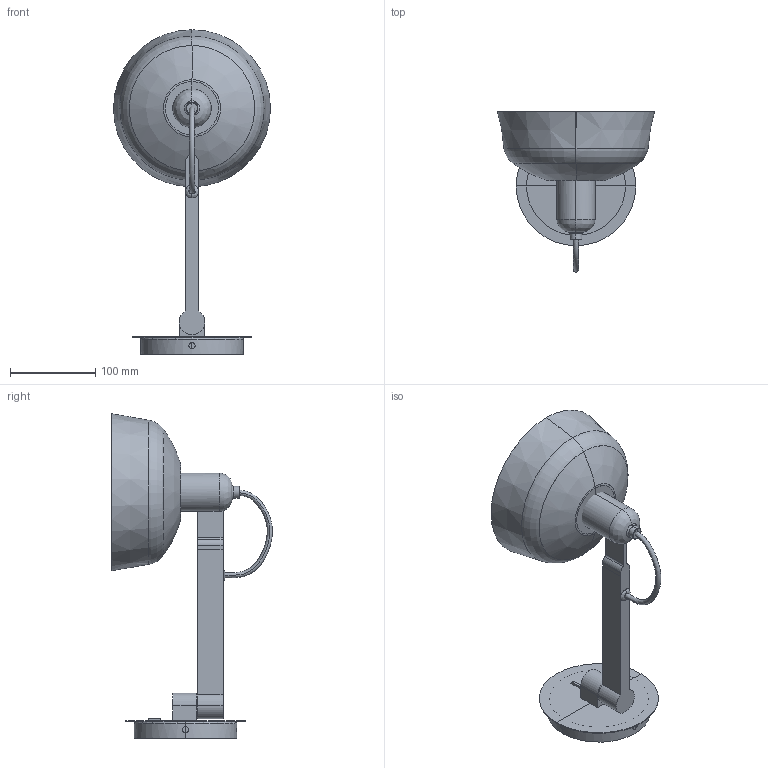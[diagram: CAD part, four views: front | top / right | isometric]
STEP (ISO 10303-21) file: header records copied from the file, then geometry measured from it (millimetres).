
FILE_DESCRIPTION(/* description */ (''),/* implementation_level */ '2;1');
FILE_NAME(/* name */ 'tatawin_armwalllamp.step',/* time_stamp */ '2024-10-22T13:37:57+02:00',/* author */ ('RenataManzini'),/* organization */ (''),/* preprocessor_version */ 'ST-DEVELOPER v20',/* originating_system */ 'AutoCAD Mechanical',/* authorisation */ '');
FILE_SCHEMA (('AUTOMOTIVE_DESIGN { 1 0 10303 214 3 1 1 }'));
Length unit declared in the file: millimetre
Products named in the file (2): Product; TATAWIN_APLIQUE_BRAZO - TATAWIN_APLIQUE_BRAZO_dwg_8135007 support 112
x109x15-653444-_3D_
Assembly tree (1 placements, depth 2):
  Product
    TATAWIN_APLIQUE_BRAZO - TATAWIN_APLIQUE_BRAZO_dwg_8135007 support 112
x109x15-653444-_3D_
Bounding box: 184.01 x 188.22 x 380.25 mm (x, y, z)
Volume: 530370.7 mm3; surface area: 333272.9 mm2
Topology: 13 solids, 13 shells, 232 faces, 543 edges, 329 vertices
Faces by surface type: plane 93, cylinder 75, bspline 24, torus 24, cone 16
Entity records: 10756 total; most frequent: CARTESIAN_POINT 5578, ORIENTED_EDGE 1070, DIRECTION 1029, EDGE_CURVE 535, AXIS2_PLACEMENT_3D 392, VERTEX_POINT 323, EDGE_LOOP 254, LINE 245
